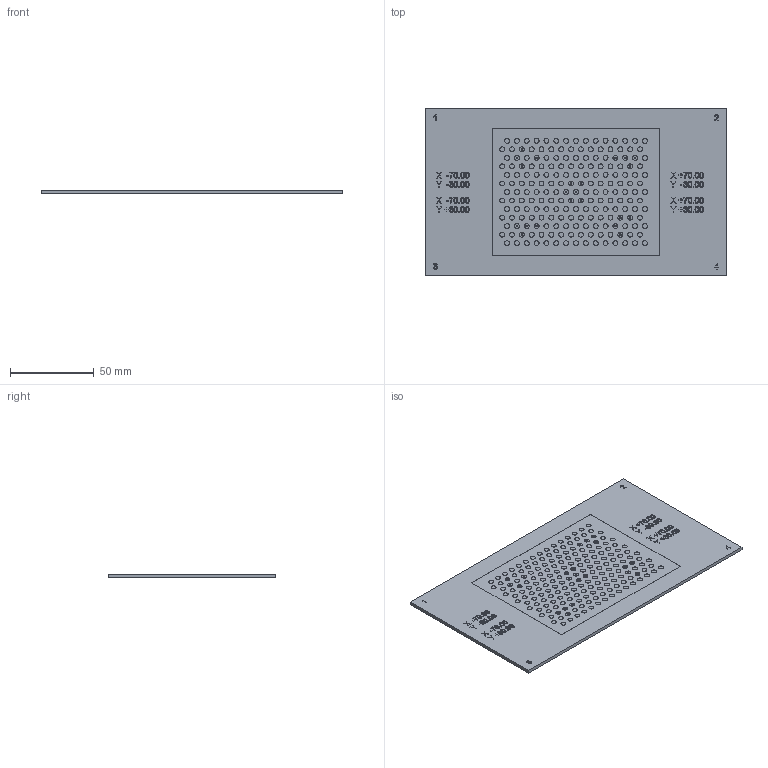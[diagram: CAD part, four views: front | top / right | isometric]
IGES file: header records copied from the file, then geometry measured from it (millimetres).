
Global section: file name: 153-13574_ZCP 100-13x15-X01_NEU; native system: Autodesk Inventor 2022; preprocessor: unknown; author: ss; date: 20220623.123203; units: millimetre
Bounding box: 180 x 100 x 2.05 mm (x, y, z)
Volume: 36321.2 mm3; surface area: 37271.4 mm2
Topology: 1 solids, 1 shells, 1125 faces, 2481 edges, 1671 vertices
Faces by surface type: bspline 1125
